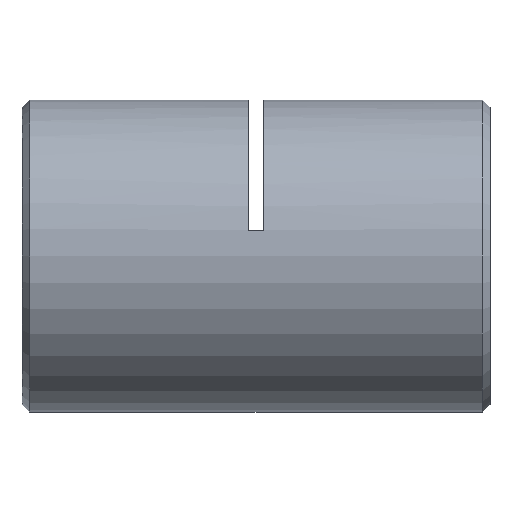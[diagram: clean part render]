
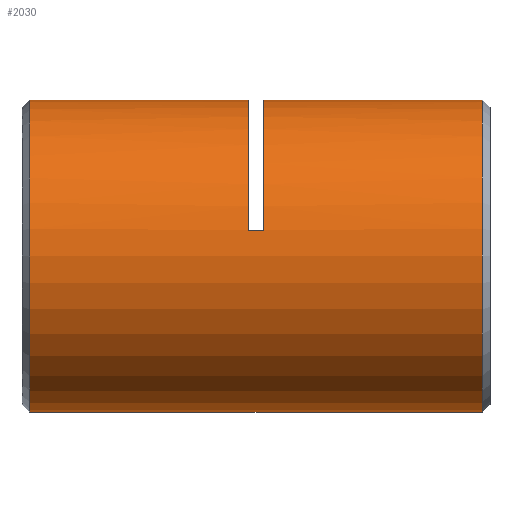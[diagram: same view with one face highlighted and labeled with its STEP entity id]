
A CAD part, left-side view. The second image highlights one B-rep face of the part: STEP entity #2030.
In plain terms, the highlighted cylindrical face has radius 10 mm (diameter 20 mm), a partial arc.
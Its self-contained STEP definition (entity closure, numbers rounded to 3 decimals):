
#62 = LINE ( 'NONE', #1572, #3412 ) ;
#179 = VECTOR ( 'NONE', #1543, 1000. ) ;
#276 = DIRECTION ( 'NONE',  ( 0., 0., -1. ) ) ;
#333 = CIRCLE ( 'NONE', #4214, 10. ) ;
#337 = EDGE_CURVE ( 'NONE', #4532, #4668, #5640, .T. ) ;
#352 = VERTEX_POINT ( 'NONE', #1311 ) ;
#483 = EDGE_CURVE ( 'NONE', #4027, #2233, #333, .T. ) ;
#522 = DIRECTION ( 'NONE',  ( 0., 1., 0. ) ) ;
#660 = ORIENTED_EDGE ( 'NONE', *, *, #483, .F. ) ;
#808 = EDGE_CURVE ( 'NONE', #4027, #4532, #62, .T. ) ;
#812 = DIRECTION ( 'NONE',  ( 0., 0., 1. ) ) ;
#894 = EDGE_CURVE ( 'NONE', #5302, #2752, #2230, .T. ) ;
#928 = CIRCLE ( 'NONE', #5344, 10. ) ;
#1011 = CARTESIAN_POINT ( 'NONE',  ( 0., 14.75, 10. ) ) ;
#1251 = CARTESIAN_POINT ( 'NONE',  ( 0., 15.75, 0. ) ) ;
#1258 = CARTESIAN_POINT ( 'NONE',  ( 0., 15.75, 10. ) ) ;
#1303 = CARTESIAN_POINT ( 'NONE',  ( 0., 0., 10. ) ) ;
#1311 = CARTESIAN_POINT ( 'NONE',  ( 0., 29.75, 10. ) ) ;
#1432 = DIRECTION ( 'NONE',  ( 0., 1., 0. ) ) ;
#1476 = VERTEX_POINT ( 'NONE', #5722 ) ;
#1527 = CARTESIAN_POINT ( 'NONE',  ( 0., 29.75, -10. ) ) ;
#1543 = DIRECTION ( 'NONE',  ( 0., 1., 0. ) ) ;
#1572 = CARTESIAN_POINT ( 'NONE',  ( -9.86, 15.25, 1.667 ) ) ;
#1655 = ORIENTED_EDGE ( 'NONE', *, *, #5742, .T. ) ;
#1694 = DIRECTION ( 'NONE',  ( 0., 1., 0. ) ) ;
#1787 = EDGE_CURVE ( 'NONE', #1476, #2233, #2224, .T. ) ;
#1819 = AXIS2_PLACEMENT_3D ( 'NONE', #2991, #4829, #276 ) ;
#1891 = DIRECTION ( 'NONE',  ( 0., 0., 1. ) ) ;
#1953 = EDGE_LOOP ( 'NONE', ( #4583, #4617, #2955, #660, #2210, #3770, #3881, #1655 ) ) ;
#2027 = LINE ( 'NONE', #1303, #4692 ) ;
#2030 = ADVANCED_FACE ( 'NONE', ( #3969 ), #4455, .T. ) ;
#2210 = ORIENTED_EDGE ( 'NONE', *, *, #808, .T. ) ;
#2224 = LINE ( 'NONE', #2428, #179 ) ;
#2230 = LINE ( 'NONE', #3787, #5756 ) ;
#2233 = VERTEX_POINT ( 'NONE', #1011 ) ;
#2283 = DIRECTION ( 'NONE',  ( 0., 0., 1. ) ) ;
#2422 = DIRECTION ( 'NONE',  ( 0., 1., 0. ) ) ;
#2428 = CARTESIAN_POINT ( 'NONE',  ( 0., 0., 10. ) ) ;
#2490 = CARTESIAN_POINT ( 'NONE',  ( -9.86, 15.75, 1.667 ) ) ;
#2524 = CARTESIAN_POINT ( 'NONE',  ( -9.86, 14.75, 1.667 ) ) ;
#2554 = DIRECTION ( 'NONE',  ( 0., 1., 0. ) ) ;
#2752 = VERTEX_POINT ( 'NONE', #1527 ) ;
#2816 = CARTESIAN_POINT ( 'NONE',  ( 0., 0., 0. ) ) ;
#2891 = EDGE_CURVE ( 'NONE', #5302, #1476, #928, .T. ) ;
#2955 = ORIENTED_EDGE ( 'NONE', *, *, #1787, .T. ) ;
#2991 = CARTESIAN_POINT ( 'NONE',  ( 0., 29.75, 0. ) ) ;
#3187 = CARTESIAN_POINT ( 'NONE',  ( 0., 14.75, 0. ) ) ;
#3412 = VECTOR ( 'NONE', #2422, 1000. ) ;
#3573 = CARTESIAN_POINT ( 'NONE',  ( 0., 0.75, -10. ) ) ;
#3623 = EDGE_CURVE ( 'NONE', #4668, #352, #2027, .T. ) ;
#3770 = ORIENTED_EDGE ( 'NONE', *, *, #337, .T. ) ;
#3787 = CARTESIAN_POINT ( 'NONE',  ( 0., 0., -10. ) ) ;
#3881 = ORIENTED_EDGE ( 'NONE', *, *, #3623, .T. ) ;
#3969 = FACE_OUTER_BOUND ( 'NONE', #1953, .T. ) ;
#4027 = VERTEX_POINT ( 'NONE', #2524 ) ;
#4214 = AXIS2_PLACEMENT_3D ( 'NONE', #3187, #522, #2283 ) ;
#4355 = DIRECTION ( 'NONE',  ( 0., 0., 1. ) ) ;
#4455 = CYLINDRICAL_SURFACE ( 'NONE', #5045, 10. ) ;
#4532 = VERTEX_POINT ( 'NONE', #2490 ) ;
#4583 = ORIENTED_EDGE ( 'NONE', *, *, #894, .F. ) ;
#4617 = ORIENTED_EDGE ( 'NONE', *, *, #2891, .T. ) ;
#4668 = VERTEX_POINT ( 'NONE', #1258 ) ;
#4689 = AXIS2_PLACEMENT_3D ( 'NONE', #1251, #1694, #812 ) ;
#4692 = VECTOR ( 'NONE', #5347, 1000. ) ;
#4806 = CARTESIAN_POINT ( 'NONE',  ( 0., 0.75, 0. ) ) ;
#4829 = DIRECTION ( 'NONE',  ( 0., -1., 0. ) ) ;
#5045 = AXIS2_PLACEMENT_3D ( 'NONE', #2816, #1432, #1891 ) ;
#5070 = CIRCLE ( 'NONE', #1819, 10. ) ;
#5136 = DIRECTION ( 'NONE',  ( 0., 1., 0. ) ) ;
#5302 = VERTEX_POINT ( 'NONE', #3573 ) ;
#5344 = AXIS2_PLACEMENT_3D ( 'NONE', #4806, #2554, #4355 ) ;
#5347 = DIRECTION ( 'NONE',  ( 0., 1., 0. ) ) ;
#5640 = CIRCLE ( 'NONE', #4689, 10. ) ;
#5722 = CARTESIAN_POINT ( 'NONE',  ( 0., 0.75, 10. ) ) ;
#5742 = EDGE_CURVE ( 'NONE', #352, #2752, #5070, .T. ) ;
#5756 = VECTOR ( 'NONE', #5136, 1000. ) ;
